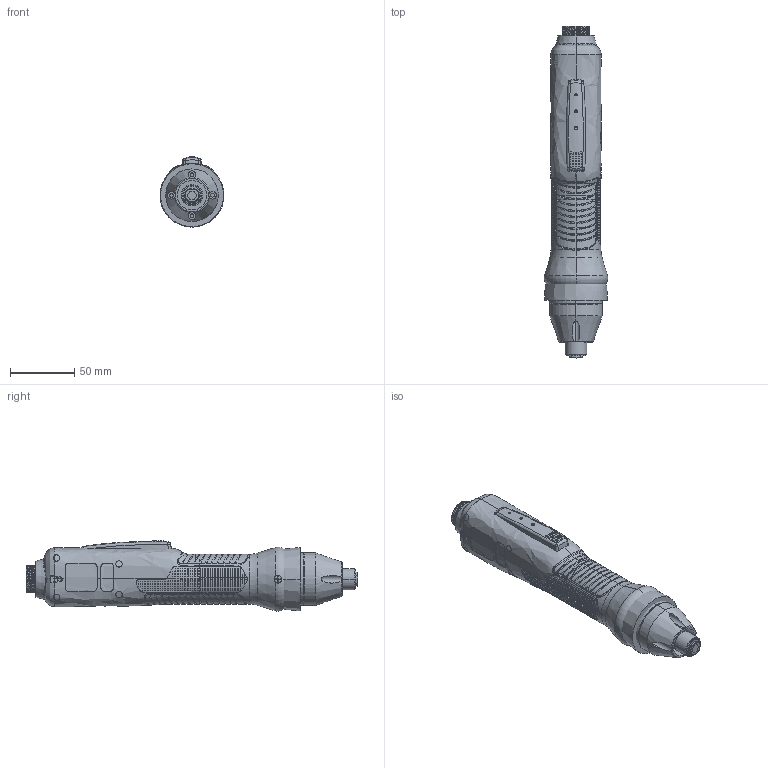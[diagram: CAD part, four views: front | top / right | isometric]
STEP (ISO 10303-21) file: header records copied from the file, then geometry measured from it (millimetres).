
FILE_DESCRIPTION (( 'STEP AP203' ), '1' );
FILE_NAME ('EXT-MD3204~3216.STEP', '2023-01-17T05:38:39', ( '' ), ( '' ), 'SwSTEP 2.0', 'SolidWorks 2021', '' );
FILE_SCHEMA (( 'CONFIG_CONTROL_DESIGN' ));
Length unit declared in the file: millimetre
Products named in the file (1): EXT-MD3204~3216
Bounding box: 49.44 x 258.85 x 54.8 mm (x, y, z)
Surface area: 72667 mm2 (no closed solid volume)
Topology: 0 solids, 95 shells, 2123 faces, 6869 edges, 4745 vertices
Faces by surface type: plane 1263, cylinder 430, bspline 360, cone 37, torus 22, sphere 11
Entity records: 105166 total; most frequent: CARTESIAN_POINT 51922, ORIENTED_EDGE 10945, DIRECTION 8754, EDGE_CURVE 6867, VERTEX_POINT 4745, AXIS2_PLACEMENT_3D 2958, LINE 2838, VECTOR 2838
